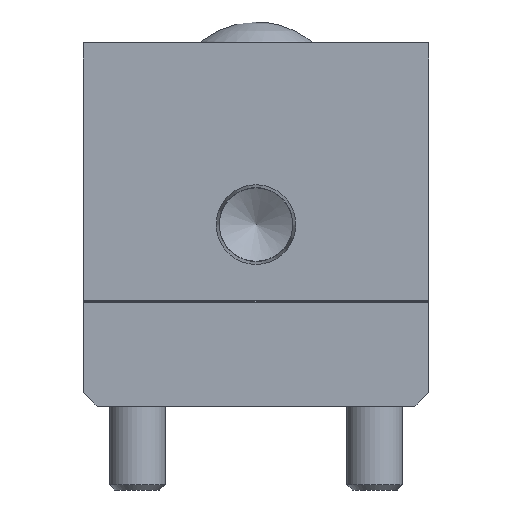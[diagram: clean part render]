
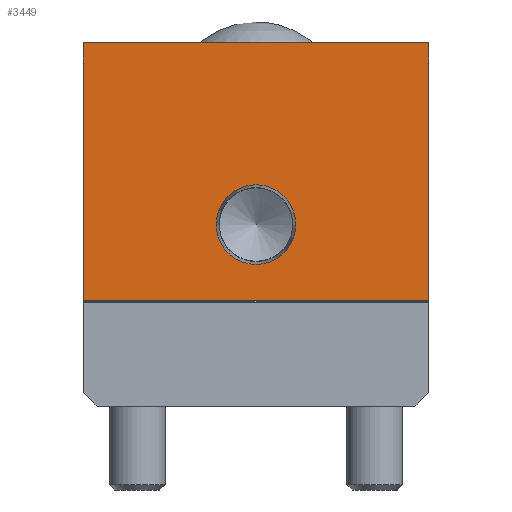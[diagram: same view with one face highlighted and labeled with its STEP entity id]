
A CAD part, front view. The second image highlights one B-rep face of the part: STEP entity #3449.
In plain terms, the highlighted planar face has unit normal (0, -1, 0).
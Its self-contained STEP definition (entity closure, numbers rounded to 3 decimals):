
#198=FACE_BOUND('',#733,.T.);
#293=CIRCLE('',#3674,5.704);
#479=FACE_OUTER_BOUND('',#732,.T.);
#732=EDGE_LOOP('',(#2475,#2476,#2477,#2478));
#733=EDGE_LOOP('',(#2479));
#1062=LINE('',#5125,#1330);
#1065=LINE('',#5130,#1333);
#1067=LINE('',#5138,#1335);
#1081=LINE('',#5174,#1349);
#1330=VECTOR('',#4139,36.9);
#1333=VECTOR('',#4144,49.5);
#1335=VECTOR('',#4152,36.9);
#1349=VECTOR('',#4196,49.5);
#1581=VERTEX_POINT('',#5122);
#1582=VERTEX_POINT('',#5124);
#1583=VERTEX_POINT('',#5128);
#1586=VERTEX_POINT('',#5136);
#1590=VERTEX_POINT('',#5150);
#1905=EDGE_CURVE('',#1582,#1581,#1062,.T.);
#1908=EDGE_CURVE('',#1581,#1583,#1065,.T.);
#1912=EDGE_CURVE('',#1586,#1583,#1067,.T.);
#1917=EDGE_CURVE('',#1590,#1590,#293,.T.);
#1930=EDGE_CURVE('',#1586,#1582,#1081,.T.);
#2475=ORIENTED_EDGE('',*,*,#1930,.T.);
#2476=ORIENTED_EDGE('',*,*,#1905,.T.);
#2477=ORIENTED_EDGE('',*,*,#1908,.T.);
#2478=ORIENTED_EDGE('',*,*,#1912,.F.);
#2479=ORIENTED_EDGE('',*,*,#1917,.T.);
#3118=PLANE('',#3707);
#3449=ADVANCED_FACE('',(#479,#198),#3118,.T.);
#3674=AXIS2_PLACEMENT_3D('',#5151,#4167,#4168);
#3707=AXIS2_PLACEMENT_3D('',#5212,#4250,#4251);
#4139=DIRECTION('',(0.,0.,1.));
#4144=DIRECTION('',(-1.,0.,0.));
#4152=DIRECTION('',(0.,0.,1.));
#4167=DIRECTION('center_axis',(0.,1.,0.));
#4168=DIRECTION('ref_axis',(1.,0.,0.));
#4196=DIRECTION('',(1.,0.,0.));
#4250=DIRECTION('center_axis',(0.,-1.,0.));
#4251=DIRECTION('ref_axis',(0.,0.,-1.));
#5122=CARTESIAN_POINT('',(24.75,0.,52.));
#5124=CARTESIAN_POINT('',(24.75,0.,15.1));
#5125=CARTESIAN_POINT('',(24.75,0.,0.));
#5128=CARTESIAN_POINT('',(-24.75,0.,52.));
#5130=CARTESIAN_POINT('',(24.75,0.,52.));
#5136=CARTESIAN_POINT('',(-24.75,0.,15.1));
#5138=CARTESIAN_POINT('',(-24.75,0.,0.));
#5150=CARTESIAN_POINT('',(5.704,0.,26.));
#5151=CARTESIAN_POINT('Origin',(0.,0.,26.));
#5174=CARTESIAN_POINT('',(24.75,0.,15.1));
#5212=CARTESIAN_POINT('Origin',(24.75,0.,0.));
